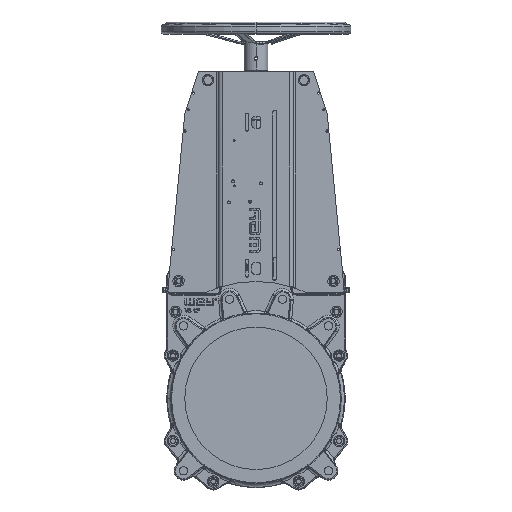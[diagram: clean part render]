
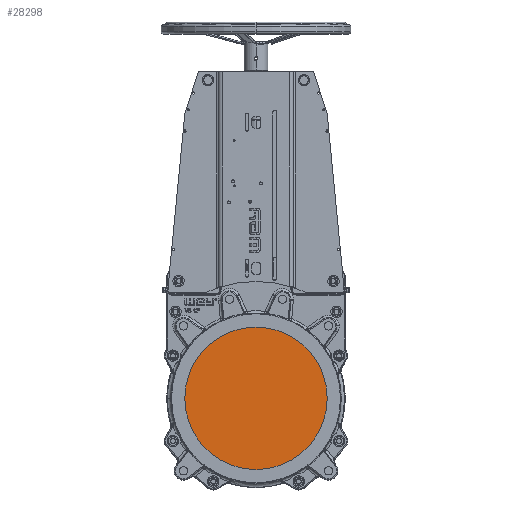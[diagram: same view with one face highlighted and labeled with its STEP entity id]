
A CAD part, top view. The second image highlights one B-rep face of the part: STEP entity #28298.
In plain terms, the highlighted planar face has unit normal (0, 0, 1).
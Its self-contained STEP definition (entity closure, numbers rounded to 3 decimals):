
#5784 = CARTESIAN_POINT ( 'NONE',  ( -150., 0., -0.25 ) ) ;
#5855 = EDGE_CURVE ( 'NONE', #135613, #63750, #77816, .T. ) ;
#6969 = AXIS2_PLACEMENT_3D ( 'NONE', #105105, #36347, #116635 ) ;
#7740 = FACE_OUTER_BOUND ( 'NONE', #14719, .T. ) ;
#12826 = ORIENTED_EDGE ( 'NONE', *, *, #67360, .T. ) ;
#14719 = EDGE_LOOP ( 'NONE', ( #129517, #12826 ) ) ;
#28298 = ADVANCED_FACE ( 'NONE', ( #7740 ), #35846, .F. ) ;
#30810 = CIRCLE ( 'NONE', #143115, 150. ) ;
#35846 = PLANE ( 'NONE',  #6969 ) ;
#36347 = DIRECTION ( 'NONE',  ( 0., 0., -1. ) ) ;
#39310 = CARTESIAN_POINT ( 'NONE',  ( 0., 0., -0.25 ) ) ;
#44037 = CARTESIAN_POINT ( 'NONE',  ( 0., 0., -0.25 ) ) ;
#50860 = DIRECTION ( 'NONE',  ( 1., 0., 0. ) ) ;
#55578 = DIRECTION ( 'NONE',  ( 1., 0., 0. ) ) ;
#63750 = VERTEX_POINT ( 'NONE', #5784 ) ;
#67360 = EDGE_CURVE ( 'NONE', #63750, #135613, #30810, .T. ) ;
#77816 = CIRCLE ( 'NONE', #146579, 150. ) ;
#105105 = CARTESIAN_POINT ( 'NONE',  ( 0., 98., -0.25 ) ) ;
#115774 = CARTESIAN_POINT ( 'NONE',  ( 150., 0., -0.25 ) ) ;
#116635 = DIRECTION ( 'NONE',  ( -1., 0., 0. ) ) ;
#119581 = DIRECTION ( 'NONE',  ( 0., 0., 1. ) ) ;
#124321 = DIRECTION ( 'NONE',  ( 0., 0., 1. ) ) ;
#129517 = ORIENTED_EDGE ( 'NONE', *, *, #5855, .T. ) ;
#135613 = VERTEX_POINT ( 'NONE', #115774 ) ;
#143115 = AXIS2_PLACEMENT_3D ( 'NONE', #39310, #119581, #50860 ) ;
#146579 = AXIS2_PLACEMENT_3D ( 'NONE', #44037, #124321, #55578 ) ;
